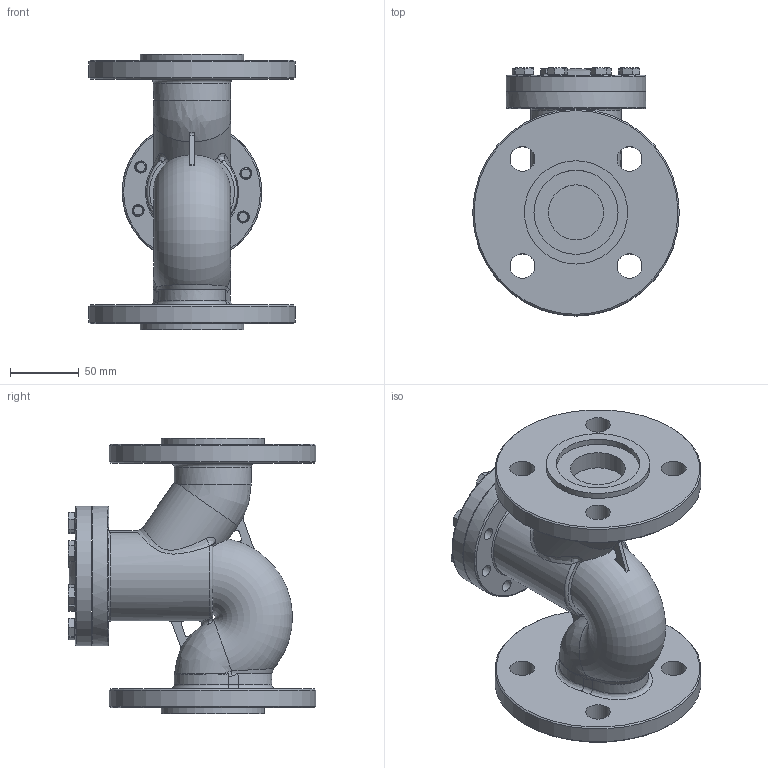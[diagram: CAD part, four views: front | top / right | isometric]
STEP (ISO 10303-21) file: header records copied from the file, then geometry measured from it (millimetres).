
FILE_DESCRIPTION(('STEP AP214'), '1');
FILE_NAME('VCR3434-F 孰囡囗 钺疣蝽 DN.ru 捏40 畜40', '', ('UNSPECIFIED'), ('UNSPECIFIED'), 'C3D Converter', 'C3D Toolkit', '');
FILE_SCHEMA(('AUTOMOTIVE_DESIGN { 1 0 10303 214 3 1 1}'));
Length unit declared in the file: millimetre
Products named in the file (1): VCR3434-F
Bounding box: 150 x 180 x 200 mm (x, y, z)
Volume: 67202 mm3; surface area: 198373.7 mm2
Topology: 1 solids, 2 shells, 390 faces, 942 edges, 588 vertices
Faces by surface type: plane 195, cylinder 68, cone 60, bspline 53, torus 10, extrusion 3, sphere 1
Full cylindrical faces by diameter (mm): 8 x8, 8.751 x16, 13 x8, 15 x1, 18 x8, 40 x4, 56 x2, 61 x2, 75 x2, 101.391 x2, 150 x2
Entity records: 23836 total; most frequent: CARTESIAN_POINT 14088, ORIENTED_EDGE 1697, DIRECTION 1550, EDGE_CURVE 862, AXIS2_PLACEMENT_3D 637, VERTEX_POINT 587, EDGE_LOOP 545, FACE_BOUND 444
